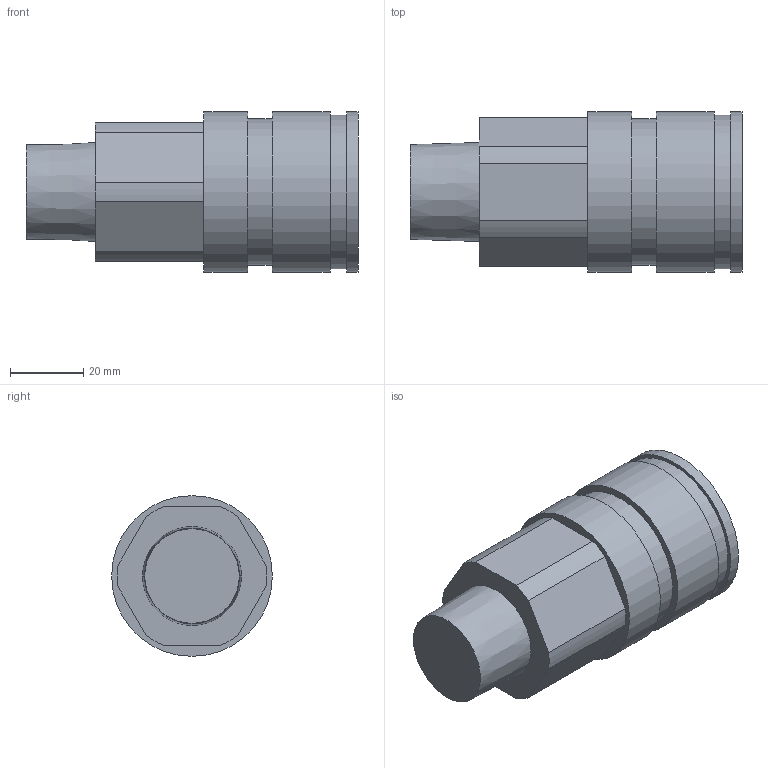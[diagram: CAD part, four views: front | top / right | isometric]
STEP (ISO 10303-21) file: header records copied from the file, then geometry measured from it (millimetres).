
FILE_DESCRIPTION((''),'2;1');
FILE_NAME('Z:\客先\あ行\アオイ\99_その他\3D_DATA\CPR_Series\4CPR-SSV-R\STEP\203\CPR-SSV-R3-4.ipt.stp','2008-07-01T16:12:52',(''),(''),'Autodesk Inventor 2009','Autodesk Inventor 2009','');
FILE_SCHEMA(('CONFIG_CONTROL_DESIGN'));
Length unit declared in the file: millimetre
Products named in the file (1): CPR-SSV-R3-4
Bounding box: 90.9 x 44 x 44 mm (x, y, z)
Volume: 85585.5 mm3; surface area: 18053.5 mm2
Topology: 1 solids, 1 shells, 28 faces, 57 edges, 38 vertices
Faces by surface type: plane 15, cylinder 12, cone 1
Full cylindrical faces by diameter (mm): 29 x1, 40 x1, 42 x1, 44 x3
Entity records: 729 total; most frequent: DIRECTION 134, CARTESIAN_POINT 117, ORIENTED_EDGE 100, AXIS2_PLACEMENT_3D 55, EDGE_CURVE 50, EDGE_LOOP 42, VERTEX_POINT 38, FACE_OUTER_BOUND 28
